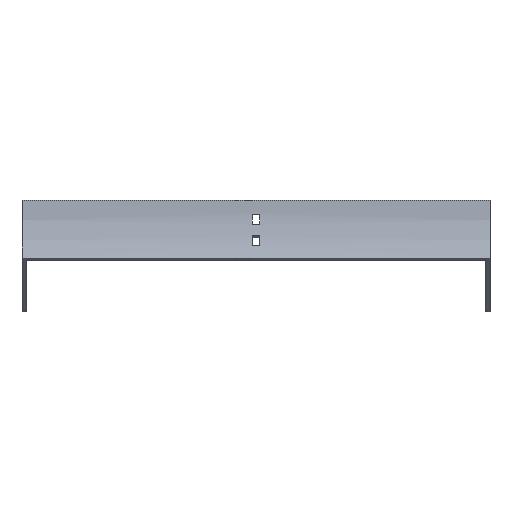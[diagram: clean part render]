
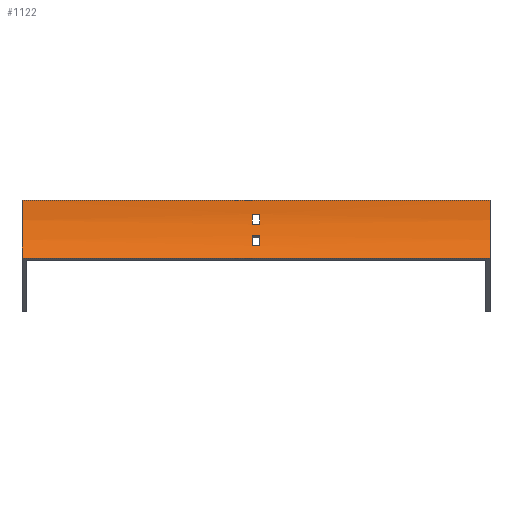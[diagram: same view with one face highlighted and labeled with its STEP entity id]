
A CAD part, front view. The second image highlights one B-rep face of the part: STEP entity #1122.
In plain terms, the highlighted cylindrical face has radius 100 mm (diameter 200 mm), a partial arc.
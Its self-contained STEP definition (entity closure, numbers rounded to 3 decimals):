
#14 = ORIENTED_EDGE ( 'NONE', *, *, #258, .T. ) ;
#21 = EDGE_CURVE ( 'NONE', #1075, #155, #1344, .T. ) ;
#22 = AXIS2_PLACEMENT_3D ( 'NONE', #1645, #175, #1272 ) ;
#31 = DIRECTION ( 'NONE',  ( 1., 0., 0. ) ) ;
#32 = CARTESIAN_POINT ( 'NONE',  ( -3.25, -0.723, -12. ) ) ;
#36 = VERTEX_POINT ( 'NONE', #577 ) ;
#61 = CARTESIAN_POINT ( 'NONE',  ( 3.25, -0.723, -12. ) ) ;
#95 = CARTESIAN_POINT ( 'NONE',  ( 202., -100., 0. ) ) ;
#97 = CIRCLE ( 'NONE', #425, 100. ) ;
#103 = FACE_BOUND ( 'NONE', #888, .T. ) ;
#155 = VERTEX_POINT ( 'NONE', #195 ) ;
#165 = DIRECTION ( 'NONE',  ( 0., 0., 1. ) ) ;
#166 = EDGE_CURVE ( 'NONE', #36, #608, #1660, .T. ) ;
#175 = DIRECTION ( 'NONE',  ( -1., 0., 0. ) ) ;
#177 = ORIENTED_EDGE ( 'NONE', *, *, #1593, .F. ) ;
#195 = CARTESIAN_POINT ( 'NONE',  ( -202., -13.397, -50. ) ) ;
#203 = ORIENTED_EDGE ( 'NONE', *, *, #21, .F. ) ;
#205 = CARTESIAN_POINT ( 'NONE',  ( 202., 0., 0. ) ) ;
#233 = DIRECTION ( 'NONE',  ( 1., 0., 0. ) ) ;
#239 = DIRECTION ( 'NONE',  ( 0., 0., 1. ) ) ;
#258 = EDGE_CURVE ( 'NONE', #572, #792, #261, .T. ) ;
#261 = LINE ( 'NONE', #1576, #674 ) ;
#305 = CIRCLE ( 'NONE', #22, 100. ) ;
#326 = ORIENTED_EDGE ( 'NONE', *, *, #1292, .T. ) ;
#350 = ORIENTED_EDGE ( 'NONE', *, *, #1101, .T. ) ;
#371 = DIRECTION ( 'NONE',  ( 0., 0., 1. ) ) ;
#374 = VECTOR ( 'NONE', #1648, 1000. ) ;
#396 = CARTESIAN_POINT ( 'NONE',  ( -202., 0., 0. ) ) ;
#401 = DIRECTION ( 'NONE',  ( -1., 0., 0. ) ) ;
#402 = CIRCLE ( 'NONE', #1325, 100. ) ;
#411 = AXIS2_PLACEMENT_3D ( 'NONE', #769, #233, #371 ) ;
#415 = EDGE_CURVE ( 'NONE', #1525, #155, #97, .T. ) ;
#425 = AXIS2_PLACEMENT_3D ( 'NONE', #1074, #1356, #165 ) ;
#486 = ORIENTED_EDGE ( 'NONE', *, *, #1066, .F. ) ;
#512 = DIRECTION ( 'NONE',  ( -1., 0., 0. ) ) ;
#527 = AXIS2_PLACEMENT_3D ( 'NONE', #95, #512, #239 ) ;
#534 = AXIS2_PLACEMENT_3D ( 'NONE', #613, #1295, #1415 ) ;
#572 = VERTEX_POINT ( 'NONE', #1293 ) ;
#577 = CARTESIAN_POINT ( 'NONE',  ( -3.25, -4.829, -30.699 ) ) ;
#585 = ORIENTED_EDGE ( 'NONE', *, *, #415, .T. ) ;
#586 = LINE ( 'NONE', #1104, #600 ) ;
#600 = VECTOR ( 'NONE', #1627, 1000. ) ;
#608 = VERTEX_POINT ( 'NONE', #1639 ) ;
#609 = DIRECTION ( 'NONE',  ( -1., 0., 0. ) ) ;
#613 = CARTESIAN_POINT ( 'NONE',  ( -3.25, -100., 0. ) ) ;
#615 = EDGE_LOOP ( 'NONE', ( #14, #350, #326, #1269 ) ) ;
#674 = VECTOR ( 'NONE', #401, 1000. ) ;
#685 = VERTEX_POINT ( 'NONE', #1032 ) ;
#769 = CARTESIAN_POINT ( 'NONE',  ( -3.25, -100., 0. ) ) ;
#792 = VERTEX_POINT ( 'NONE', #1624 ) ;
#802 = CARTESIAN_POINT ( 'NONE',  ( 3.25, -8.023, -39.246 ) ) ;
#818 = DIRECTION ( 'NONE',  ( 1., 0., 0. ) ) ;
#821 = EDGE_CURVE ( 'NONE', #1289, #685, #402, .T. ) ;
#857 = VERTEX_POINT ( 'NONE', #32 ) ;
#888 = EDGE_LOOP ( 'NONE', ( #1414, #486, #1278, #1314 ) ) ;
#890 = FACE_OUTER_BOUND ( 'NONE', #1172, .T. ) ;
#967 = LINE ( 'NONE', #1135, #374 ) ;
#969 = CARTESIAN_POINT ( 'NONE',  ( 3.25, -100., 0. ) ) ;
#994 = EDGE_CURVE ( 'NONE', #1385, #572, #305, .T. ) ;
#1018 = CIRCLE ( 'NONE', #1044, 100. ) ;
#1032 = CARTESIAN_POINT ( 'NONE',  ( 3.25, -4.829, -30.699 ) ) ;
#1044 = AXIS2_PLACEMENT_3D ( 'NONE', #1511, #609, #1628 ) ;
#1066 = EDGE_CURVE ( 'NONE', #685, #36, #1554, .T. ) ;
#1071 = DIRECTION ( 'NONE',  ( 0., 0., 1. ) ) ;
#1074 = CARTESIAN_POINT ( 'NONE',  ( -202., -100., 0. ) ) ;
#1075 = VERTEX_POINT ( 'NONE', #1432 ) ;
#1081 = CARTESIAN_POINT ( 'NONE',  ( 202., -0.723, -12. ) ) ;
#1101 = EDGE_CURVE ( 'NONE', #792, #857, #1164, .T. ) ;
#1104 = CARTESIAN_POINT ( 'NONE',  ( 202., 0., 0. ) ) ;
#1122 = ADVANCED_FACE ( 'NONE', ( #890, #1300, #103 ), #1686, .F. ) ;
#1135 = CARTESIAN_POINT ( 'NONE',  ( 202., -8.023, -39.246 ) ) ;
#1155 = DIRECTION ( 'NONE',  ( -1., 0., 0. ) ) ;
#1164 = CIRCLE ( 'NONE', #411, 100. ) ;
#1172 = EDGE_LOOP ( 'NONE', ( #585, #203, #177, #1421 ) ) ;
#1193 = VECTOR ( 'NONE', #31, 1000. ) ;
#1215 = LINE ( 'NONE', #1081, #1193 ) ;
#1269 = ORIENTED_EDGE ( 'NONE', *, *, #994, .T. ) ;
#1272 = DIRECTION ( 'NONE',  ( 0., 0., -1. ) ) ;
#1278 = ORIENTED_EDGE ( 'NONE', *, *, #821, .F. ) ;
#1289 = VERTEX_POINT ( 'NONE', #802 ) ;
#1292 = EDGE_CURVE ( 'NONE', #857, #1385, #1215, .T. ) ;
#1293 = CARTESIAN_POINT ( 'NONE',  ( 3.25, -2.23, -21. ) ) ;
#1295 = DIRECTION ( 'NONE',  ( -1., 0., 0. ) ) ;
#1300 = FACE_BOUND ( 'NONE', #615, .T. ) ;
#1314 = ORIENTED_EDGE ( 'NONE', *, *, #1359, .F. ) ;
#1325 = AXIS2_PLACEMENT_3D ( 'NONE', #969, #818, #1071 ) ;
#1344 = LINE ( 'NONE', #1578, #1476 ) ;
#1356 = DIRECTION ( 'NONE',  ( -1., 0., 0. ) ) ;
#1359 = EDGE_CURVE ( 'NONE', #608, #1289, #967, .T. ) ;
#1368 = VERTEX_POINT ( 'NONE', #205 ) ;
#1372 = DIRECTION ( 'NONE',  ( -1., 0., 0. ) ) ;
#1385 = VERTEX_POINT ( 'NONE', #61 ) ;
#1396 = EDGE_CURVE ( 'NONE', #1368, #1525, #586, .T. ) ;
#1414 = ORIENTED_EDGE ( 'NONE', *, *, #166, .F. ) ;
#1415 = DIRECTION ( 'NONE',  ( 0., 0., -1. ) ) ;
#1421 = ORIENTED_EDGE ( 'NONE', *, *, #1396, .T. ) ;
#1432 = CARTESIAN_POINT ( 'NONE',  ( 202., -13.397, -50. ) ) ;
#1476 = VECTOR ( 'NONE', #1372, 1000. ) ;
#1511 = CARTESIAN_POINT ( 'NONE',  ( 202., -100., 0. ) ) ;
#1525 = VERTEX_POINT ( 'NONE', #396 ) ;
#1554 = LINE ( 'NONE', #1564, #1675 ) ;
#1564 = CARTESIAN_POINT ( 'NONE',  ( 202., -4.829, -30.699 ) ) ;
#1576 = CARTESIAN_POINT ( 'NONE',  ( 202., -2.23, -21. ) ) ;
#1578 = CARTESIAN_POINT ( 'NONE',  ( 202., -13.397, -50. ) ) ;
#1593 = EDGE_CURVE ( 'NONE', #1368, #1075, #1018, .T. ) ;
#1624 = CARTESIAN_POINT ( 'NONE',  ( -3.25, -2.23, -21. ) ) ;
#1627 = DIRECTION ( 'NONE',  ( -1., 0., 0. ) ) ;
#1628 = DIRECTION ( 'NONE',  ( 0., 0., 1. ) ) ;
#1639 = CARTESIAN_POINT ( 'NONE',  ( -3.25, -8.023, -39.246 ) ) ;
#1645 = CARTESIAN_POINT ( 'NONE',  ( 3.25, -100., 0. ) ) ;
#1648 = DIRECTION ( 'NONE',  ( 1., 0., 0. ) ) ;
#1660 = CIRCLE ( 'NONE', #534, 100. ) ;
#1675 = VECTOR ( 'NONE', #1155, 1000. ) ;
#1686 = CYLINDRICAL_SURFACE ( 'NONE', #527, 100. ) ;
